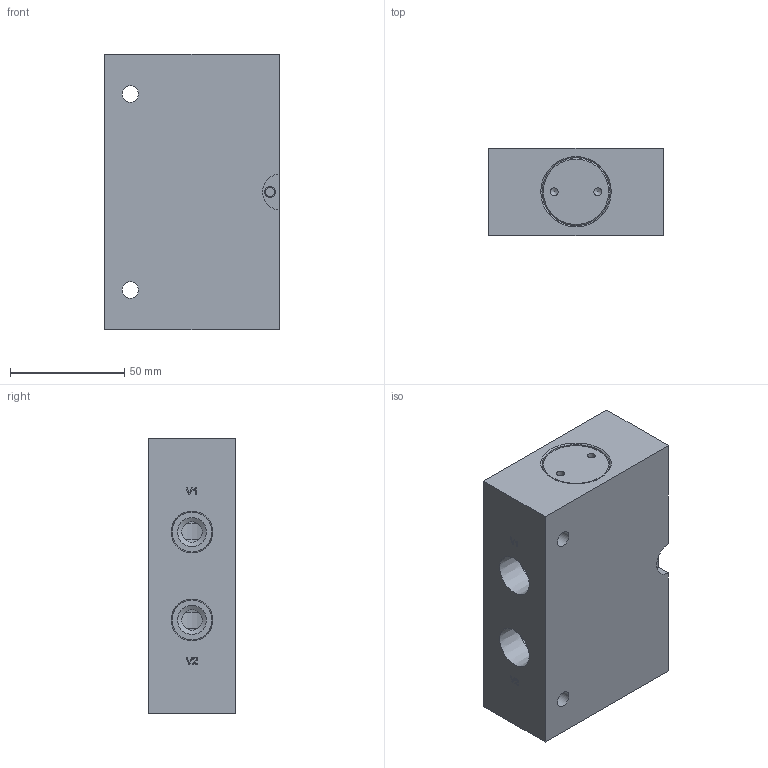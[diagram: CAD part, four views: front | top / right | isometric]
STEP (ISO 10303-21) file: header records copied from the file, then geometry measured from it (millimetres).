
FILE_DESCRIPTION(/* description */ (''),/* implementation_level */ '2;1');
FILE_NAME(/* name */ 'L:\ALADCO\Advertising\3D Content\Valves\Step Files - 2014-11-19 thru Present\61500X.stp',/* time_stamp */ '2014-11-20T10:10:17-06:00',/* author */ ('dmatz'),/* organization */ ('Aladdin Eng. & Manf. Inc.'),/* preprocessor_version */ 'ST-DEVELOPER v15.2',/* originating_system */ 'Autodesk Inventor 2014',/* authorisation */ '0 in^3');
FILE_SCHEMA (('AUTOMOTIVE_DESIGN { 1 0 10303 214 3 1 1 }'));
Length unit declared in the file: inch
Products named in the file (8): 620052; 620025; 620047; 620046; 620059; 620058; 710-073SS; 615001
Bounding box: 76.2 x 38.1 x 120.65 mm (x, y, z)
Volume: 279217.6 mm3; surface area: 65610.7 mm2
Topology: 10 solids, 10 shells, 399 faces, 994 edges, 646 vertices
Faces by surface type: plane 169, cylinder 109, bspline 66, cone 48, torus 7
Full cylindrical faces by diameter (mm): 1.575 x2, 1.588 x2, 2.54 x1, 2.642 x4, 2.794 x2, 3.175 x2, 3.2 x2, 3.454 x4, 3.505 x4, 3.81 x8, 4.013 x1, 4.648 x1, 4.762 x1, 5.563 x2, 5.74 x4, 6.35 x4, 6.477 x2, 7.144 x2, 8.992 x4, 12.7 x4, 13.081 x2, 16.129 x2, 17.475 x4, 21.107 x2, 25.4 x1, 26.035 x2, 28.524 x4, 28.575 x4, 29.591 x2, 29.766 x2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
Entity records: 9923 total; most frequent: CARTESIAN_POINT 3127, ORIENTED_EDGE 1234, DIRECTION 1188, EDGE_CURVE 617, EDGE_LOOP 486, AXIS2_PLACEMENT_3D 460, VERTEX_POINT 457, ADVANCED_FACE 306
